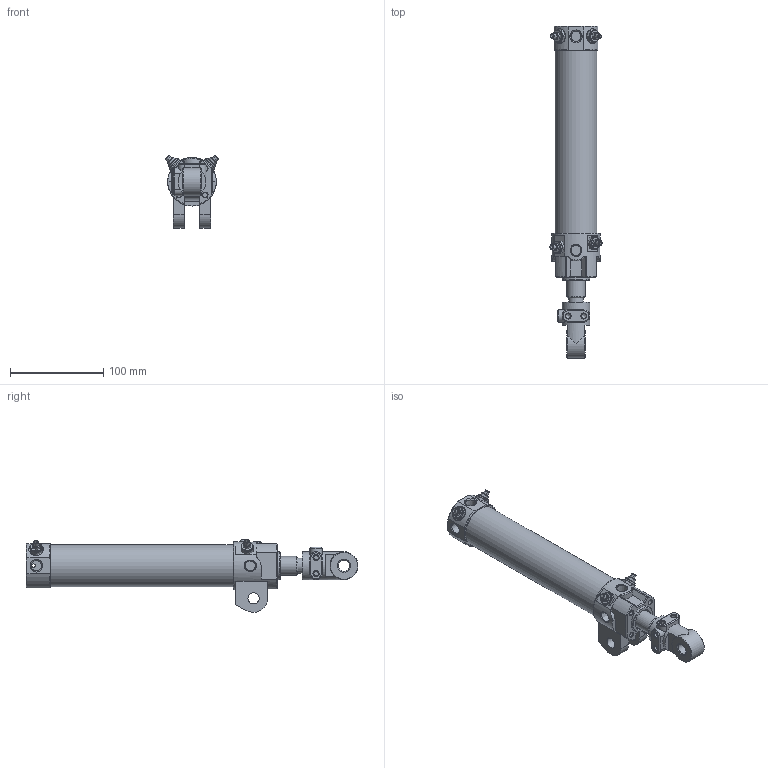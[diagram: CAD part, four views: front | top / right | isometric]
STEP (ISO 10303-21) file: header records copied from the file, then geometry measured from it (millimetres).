
FILE_DESCRIPTION((''),'2;1');
FILE_NAME('I:\3D電子目錄\氣缸\DCK\DCK\DCK-1A-40x150-I.stp','2008-02-26T10:54:07',('Administrator'),(''),'Autodesk Inventor 11','Autodesk Inventor 11','');
FILE_SCHEMA(('AUTOMOTIVE_DESIGN { 1 0 10303 214 1 1 1 1 }'));
Length unit declared in the file: millimetre
Products named in the file (6): DCK-1A-40-I; 緩衝針; 緩衝針-1; 緩衝針-201; 緩衝針-3
Assembly tree (8 placements, depth 3):
  DCK-1A-40-I
    DCK-1A-40-I
    緩衝針  x4
      緩衝針-1
      緩衝針-201
      緩衝針-3
Bounding box: 56.06 x 356 x 78.02 mm (x, y, z)
Volume: 246736.8 mm3; surface area: 116808.8 mm2
Topology: 16 solids, 16 shells, 688 faces, 1580 edges, 982 vertices
Faces by surface type: plane 234, cylinder 209, cone 144, bspline 64, torus 35, sphere 2
Full cylindrical faces by diameter (mm): 2 x1, 3 x3, 3.8 x2, 4 x6, 4.6 x4, 5 x8, 5.1 x4, 5.2 x12, 5.5 x4, 7 x1, 7.25 x1, 7.9 x4, 8 x2, 8.3 x1, 10 x2, 12 x3, 12.8 x4, 16 x3, 20 x1, 21 x1, 22 x3, 23 x1, 24.7 x1, 26 x1, 28 x1, 29 x1, 30 x3, 33 x1, 40 x1, 42 x2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
Entity records: 23172 total; most frequent: CARTESIAN_POINT 13940, DIRECTION 1810, ORIENTED_EDGE 1772, EDGE_CURVE 886, AXIS2_PLACEMENT_3D 781, EDGE_LOOP 625, VERTEX_POINT 617, FACE_OUTER_BOUND 437
